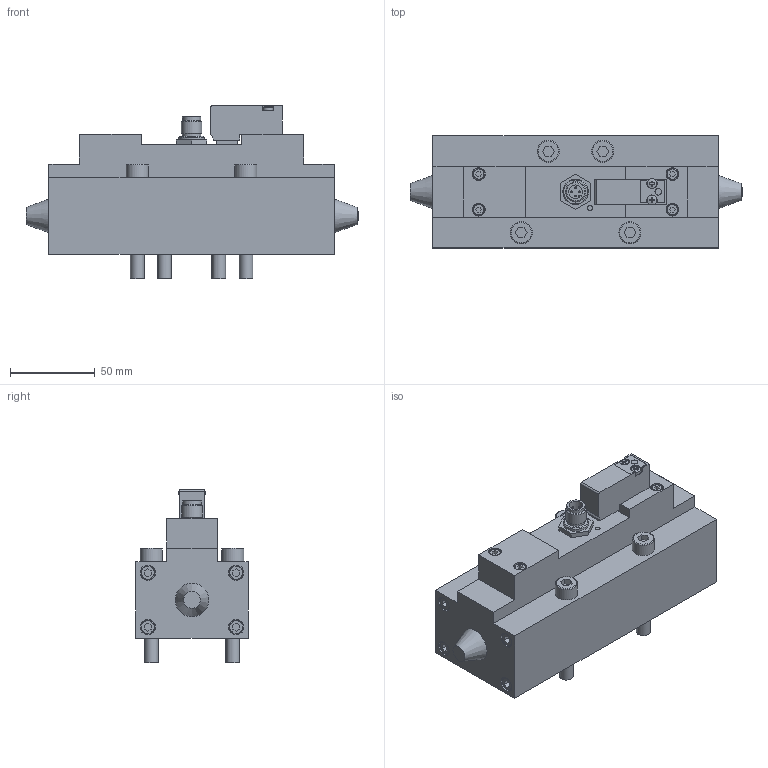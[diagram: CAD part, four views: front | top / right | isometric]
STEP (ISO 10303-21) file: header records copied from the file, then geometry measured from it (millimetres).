
FILE_DESCRIPTION((''),'2;1');
FILE_NAME('I:\Area Tecnica\Disegni\VARIE-3D\Componenti\ISO\ISO-M12\1113_52_3_6_12P.stp','2014-03-18T13:53:12',('valotma1'),(''),'Autodesk Inventor 2013','Autodesk Inventor 2013','');
FILE_SCHEMA(('AUTOMOTIVE_DESIGN { 1 0 10303 214 1 1 1 1 }'));
Length unit declared in the file: millimetre
Products named in the file (3): 1113_52_3_6_12P; 1113_52_3_6; M15P12P_
Assembly tree (2 placements, depth 2):
  1113_52_3_6_12P
    1113_52_3_6
    M15P12P_
Bounding box: 195.5 x 66 x 102.2 mm (x, y, z)
Volume: 622154.2 mm3; surface area: 63661 mm2
Topology: 3 solids, 3 shells, 331 faces, 753 edges, 493 vertices
Faces by surface type: plane 242, cylinder 58, torus 16, cone 9, sphere 6
Full cylindrical faces by diameter (mm): 1 x4, 2 x5, 3 x2, 3.1 x2, 3.9 x1, 5.8 x2, 6 x1, 7 x4, 7.5 x4, 8 x4, 8.5 x8, 9 x8, 10.7 x2, 12 x1, 13 x4, 15 x1
Entity records: 9058 total; most frequent: DIRECTION 1494, CARTESIAN_POINT 1472, ORIENTED_EDGE 1314, EDGE_CURVE 657, AXIS2_PLACEMENT_3D 501, VECTOR 492, LINE 492, VERTEX_POINT 479
